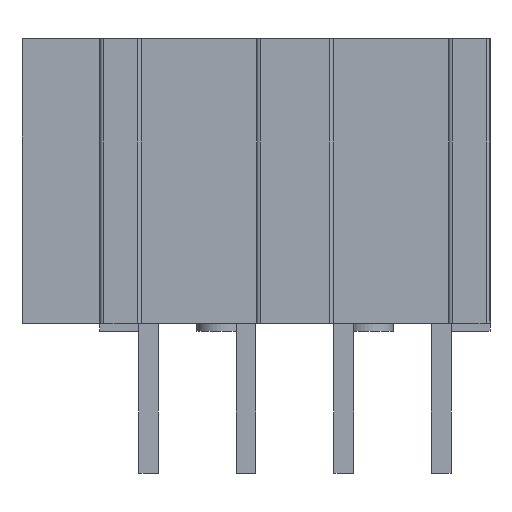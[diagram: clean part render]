
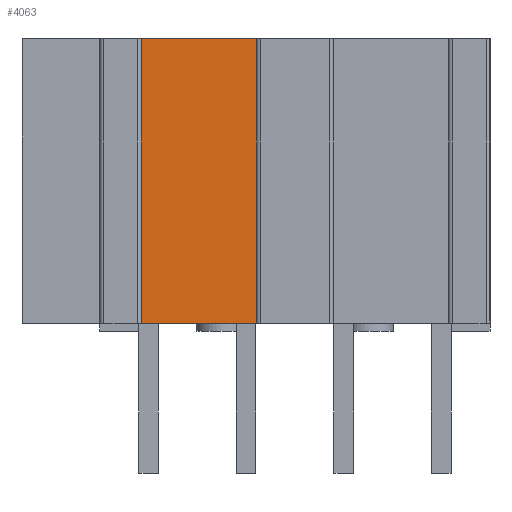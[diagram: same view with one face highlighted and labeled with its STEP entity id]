
A CAD part, front view. The second image highlights one B-rep face of the part: STEP entity #4063.
In plain terms, the highlighted planar face has unit normal (0, -1, 0).
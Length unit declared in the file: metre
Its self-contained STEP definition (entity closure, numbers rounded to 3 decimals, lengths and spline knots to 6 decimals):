
#318=LINE('',#7766,#770);
#491=LINE('',#8178,#943);
#547=LINE('',#8286,#999);
#548=LINE('',#8288,#1000);
#770=VECTOR('',#5845,1.);
#943=VECTOR('',#6192,1.);
#999=VECTOR('',#6306,1.);
#1000=VECTOR('',#6309,1.);
#1860=ORIENTED_EDGE('',*,*,#2390,.F.);
#1861=ORIENTED_EDGE('',*,*,#2652,.T.);
#1862=ORIENTED_EDGE('',*,*,#2596,.T.);
#1863=ORIENTED_EDGE('',*,*,#2653,.F.);
#2390=EDGE_CURVE('',#2873,#2874,#318,.F.);
#2596=EDGE_CURVE('',#3026,#3025,#491,.T.);
#2652=EDGE_CURVE('',#2873,#3026,#547,.T.);
#2653=EDGE_CURVE('',#2874,#3025,#548,.T.);
#2873=VERTEX_POINT('',#7765);
#2874=VERTEX_POINT('',#7767);
#3025=VERTEX_POINT('',#8177);
#3026=VERTEX_POINT('',#8179);
#3280=EDGE_LOOP('',(#1860,#1861,#1862,#1863));
#3504=FACE_BOUND('',#3280,.T.);
#3691=PLANE('',#5415);
#4063=ADVANCED_FACE('',(#3504),#3691,.F.);
#5415=AXIS2_PLACEMENT_3D('',#8289,#6310,#6311);
#5845=DIRECTION('',(1.,0.,0.));
#6192=DIRECTION('',(-1.,0.,0.));
#6306=DIRECTION('',(0.,0.,1.));
#6309=DIRECTION('',(0.,0.,1.));
#6310=DIRECTION('',(0.,1.,0.));
#6311=DIRECTION('',(0.,0.,-1.));
#7765=CARTESIAN_POINT('',(-0.062866,-0.014993,0.009401));
#7766=CARTESIAN_POINT('',(-0.057866,-0.014993,0.009401));
#7767=CARTESIAN_POINT('',(-0.065866,-0.014993,0.009401));
#8177=CARTESIAN_POINT('',(-0.065866,-0.014993,0.01682));
#8178=CARTESIAN_POINT('',(-0.065866,-0.014993,0.01682));
#8179=CARTESIAN_POINT('',(-0.062866,-0.014993,0.01682));
#8286=CARTESIAN_POINT('',(-0.062866,-0.014993,0.0092));
#8288=CARTESIAN_POINT('',(-0.065866,-0.014993,0.0092));
#8289=CARTESIAN_POINT('',(-0.057866,-0.014993,0.0092));
